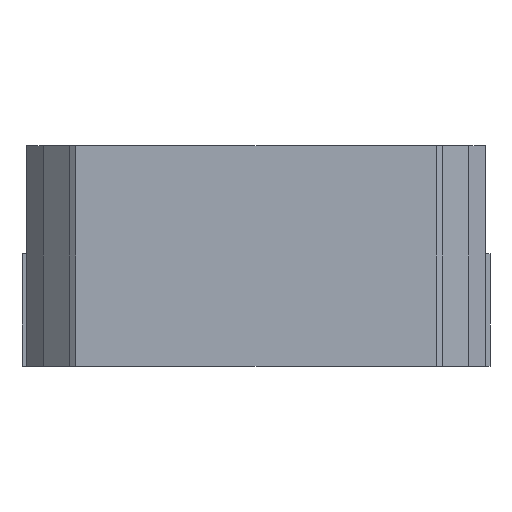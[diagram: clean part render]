
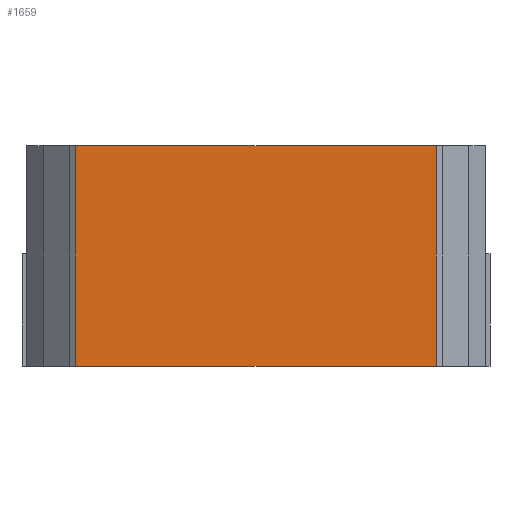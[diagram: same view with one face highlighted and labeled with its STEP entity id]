
A CAD part, front view. The second image highlights one B-rep face of the part: STEP entity #1659.
In plain terms, the highlighted planar face has unit normal (0, -1, 0).
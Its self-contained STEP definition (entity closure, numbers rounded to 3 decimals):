
#63 = PLANE('',#64);
#64 = AXIS2_PLACEMENT_3D('',#65,#66,#67);
#65 = CARTESIAN_POINT('',(-6.25,-6.25,6.));
#66 = DIRECTION('',(0.,0.,1.));
#67 = DIRECTION('',(1.,0.,0.));
#117 = PLANE('',#118);
#118 = AXIS2_PLACEMENT_3D('',#119,#120,#121);
#119 = CARTESIAN_POINT('',(-6.25,-6.25,0.));
#120 = DIRECTION('',(0.,0.,1.));
#121 = DIRECTION('',(1.,0.,0.));
#303 = VERTEX_POINT('',#304);
#304 = CARTESIAN_POINT('',(-4.905,-6.25,6.));
#317 = PLANE('',#318);
#318 = AXIS2_PLACEMENT_3D('',#319,#320,#321);
#319 = CARTESIAN_POINT('',(-5.071,-6.129,-1.));
#320 = DIRECTION('',(0.588,0.809,0.));
#321 = DIRECTION('',(0.809,-0.588,0.));
#328 = EDGE_CURVE('',#303,#329,#331,.T.);
#329 = VERTEX_POINT('',#330);
#330 = CARTESIAN_POINT('',(4.905,-6.25,6.));
#331 = SURFACE_CURVE('',#332,(#336,#343),.PCURVE_S1.);
#332 = LINE('',#333,#334);
#333 = CARTESIAN_POINT('',(-6.25,-6.25,6.));
#334 = VECTOR('',#335,1.);
#335 = DIRECTION('',(1.,0.,0.));
#336 = PCURVE('',#63,#337);
#337 = DEFINITIONAL_REPRESENTATION('',(#338),#342);
#338 = LINE('',#339,#340);
#339 = CARTESIAN_POINT('',(0.,0.));
#340 = VECTOR('',#341,1.);
#341 = DIRECTION('',(1.,0.));
#342 = ( GEOMETRIC_REPRESENTATION_CONTEXT(2) 
PARAMETRIC_REPRESENTATION_CONTEXT() REPRESENTATION_CONTEXT('2D SPACE',''
  ) );
#343 = PCURVE('',#344,#349);
#344 = PLANE('',#345);
#345 = AXIS2_PLACEMENT_3D('',#346,#347,#348);
#346 = CARTESIAN_POINT('',(-6.25,-6.25,0.));
#347 = DIRECTION('',(0.,1.,0.));
#348 = DIRECTION('',(0.,0.,1.));
#349 = DEFINITIONAL_REPRESENTATION('',(#350),#354);
#350 = LINE('',#351,#352);
#351 = CARTESIAN_POINT('',(6.,0.));
#352 = VECTOR('',#353,1.);
#353 = DIRECTION('',(0.,1.));
#354 = ( GEOMETRIC_REPRESENTATION_CONTEXT(2) 
PARAMETRIC_REPRESENTATION_CONTEXT() REPRESENTATION_CONTEXT('2D SPACE',''
  ) );
#371 = PLANE('',#372);
#372 = AXIS2_PLACEMENT_3D('',#373,#374,#375);
#373 = CARTESIAN_POINT('',(4.262,-6.717,-1.));
#374 = DIRECTION('',(-0.588,0.809,0.));
#375 = DIRECTION('',(0.809,0.588,0.));
#733 = VERTEX_POINT('',#734);
#734 = CARTESIAN_POINT('',(-4.905,-6.25,0.));
#753 = EDGE_CURVE('',#733,#754,#756,.T.);
#754 = VERTEX_POINT('',#755);
#755 = CARTESIAN_POINT('',(4.905,-6.25,0.));
#756 = SURFACE_CURVE('',#757,(#761,#768),.PCURVE_S1.);
#757 = LINE('',#758,#759);
#758 = CARTESIAN_POINT('',(-6.25,-6.25,0.));
#759 = VECTOR('',#760,1.);
#760 = DIRECTION('',(1.,0.,0.));
#761 = PCURVE('',#117,#762);
#762 = DEFINITIONAL_REPRESENTATION('',(#763),#767);
#763 = LINE('',#764,#765);
#764 = CARTESIAN_POINT('',(0.,0.));
#765 = VECTOR('',#766,1.);
#766 = DIRECTION('',(1.,0.));
#767 = ( GEOMETRIC_REPRESENTATION_CONTEXT(2) 
PARAMETRIC_REPRESENTATION_CONTEXT() REPRESENTATION_CONTEXT('2D SPACE',''
  ) );
#768 = PCURVE('',#344,#769);
#769 = DEFINITIONAL_REPRESENTATION('',(#770),#774);
#770 = LINE('',#771,#772);
#771 = CARTESIAN_POINT('',(0.,0.));
#772 = VECTOR('',#773,1.);
#773 = DIRECTION('',(0.,1.));
#774 = ( GEOMETRIC_REPRESENTATION_CONTEXT(2) 
PARAMETRIC_REPRESENTATION_CONTEXT() REPRESENTATION_CONTEXT('2D SPACE',''
  ) );
#1640 = EDGE_CURVE('',#754,#329,#1641,.T.);
#1641 = SURFACE_CURVE('',#1642,(#1646,#1652),.PCURVE_S1.);
#1642 = LINE('',#1643,#1644);
#1643 = CARTESIAN_POINT('',(4.905,-6.25,-0.5));
#1644 = VECTOR('',#1645,1.);
#1645 = DIRECTION('',(0.,-0.,1.));
#1646 = PCURVE('',#371,#1647);
#1647 = DEFINITIONAL_REPRESENTATION('',(#1648),#1651);
#1648 = B_SPLINE_CURVE_WITH_KNOTS('',1,(#1649,#1650),.UNSPECIFIED.,.F.,
  .F.,(2,2),(0.5,6.5),.PIECEWISE_BEZIER_KNOTS.);
#1649 = CARTESIAN_POINT('',(0.794,-1.));
#1650 = CARTESIAN_POINT('',(0.794,-7.));
#1651 = ( GEOMETRIC_REPRESENTATION_CONTEXT(2) 
PARAMETRIC_REPRESENTATION_CONTEXT() REPRESENTATION_CONTEXT('2D SPACE',''
  ) );
#1652 = PCURVE('',#344,#1653);
#1653 = DEFINITIONAL_REPRESENTATION('',(#1654),#1657);
#1654 = B_SPLINE_CURVE_WITH_KNOTS('',1,(#1655,#1656),.UNSPECIFIED.,.F.,
  .F.,(2,2),(0.5,6.5),.PIECEWISE_BEZIER_KNOTS.);
#1655 = CARTESIAN_POINT('',(0.,11.155));
#1656 = CARTESIAN_POINT('',(6.,11.155));
#1657 = ( GEOMETRIC_REPRESENTATION_CONTEXT(2) 
PARAMETRIC_REPRESENTATION_CONTEXT() REPRESENTATION_CONTEXT('2D SPACE',''
  ) );
#1659 = ADVANCED_FACE('',(#1660),#344,.F.);
#1660 = FACE_BOUND('',#1661,.F.);
#1661 = EDGE_LOOP('',(#1662,#1663,#1682,#1683));
#1662 = ORIENTED_EDGE('',*,*,#753,.F.);
#1663 = ORIENTED_EDGE('',*,*,#1664,.F.);
#1664 = EDGE_CURVE('',#303,#733,#1665,.T.);
#1665 = SURFACE_CURVE('',#1666,(#1670,#1676),.PCURVE_S1.);
#1666 = LINE('',#1667,#1668);
#1667 = CARTESIAN_POINT('',(-4.905,-6.25,-0.5));
#1668 = VECTOR('',#1669,1.);
#1669 = DIRECTION('',(0.,0.,-1.));
#1670 = PCURVE('',#344,#1671);
#1671 = DEFINITIONAL_REPRESENTATION('',(#1672),#1675);
#1672 = B_SPLINE_CURVE_WITH_KNOTS('',1,(#1673,#1674),.UNSPECIFIED.,.F.,
  .F.,(2,2),(-6.5,-0.5),.PIECEWISE_BEZIER_KNOTS.);
#1673 = CARTESIAN_POINT('',(6.,1.345));
#1674 = CARTESIAN_POINT('',(0.,1.345));
#1675 = ( GEOMETRIC_REPRESENTATION_CONTEXT(2) 
PARAMETRIC_REPRESENTATION_CONTEXT() REPRESENTATION_CONTEXT('2D SPACE',''
  ) );
#1676 = PCURVE('',#317,#1677);
#1677 = DEFINITIONAL_REPRESENTATION('',(#1678),#1681);
#1678 = B_SPLINE_CURVE_WITH_KNOTS('',1,(#1679,#1680),.UNSPECIFIED.,.F.,
  .F.,(2,2),(-6.5,-0.5),.PIECEWISE_BEZIER_KNOTS.);
#1679 = CARTESIAN_POINT('',(0.205,-7.));
#1680 = CARTESIAN_POINT('',(0.205,-1.));
#1681 = ( GEOMETRIC_REPRESENTATION_CONTEXT(2) 
PARAMETRIC_REPRESENTATION_CONTEXT() REPRESENTATION_CONTEXT('2D SPACE',''
  ) );
#1682 = ORIENTED_EDGE('',*,*,#328,.T.);
#1683 = ORIENTED_EDGE('',*,*,#1640,.F.);
